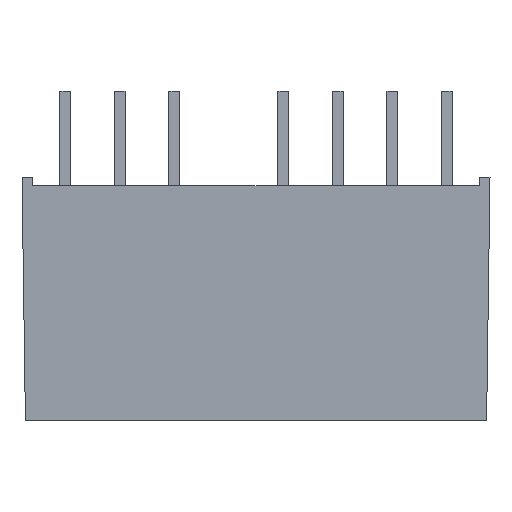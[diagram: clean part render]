
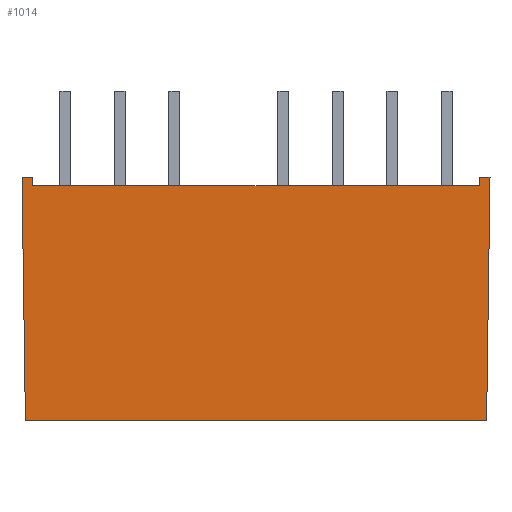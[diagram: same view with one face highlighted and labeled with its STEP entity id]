
A CAD part, front view. The second image highlights one B-rep face of the part: STEP entity #1014.
In plain terms, the highlighted planar face has unit normal (0, -1, -0.014).
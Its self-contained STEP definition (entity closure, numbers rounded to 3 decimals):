
#3 = CARTESIAN_POINT ( 'NONE',  ( 10.4, -4.65, 11.35 ) ) ;
#38 = VERTEX_POINT ( 'NONE', #153 ) ;
#47 = VECTOR ( 'NONE', #322, 1000. ) ;
#93 = CARTESIAN_POINT ( 'NONE',  ( 10.742, -4.492, 0. ) ) ;
#97 = ORIENTED_EDGE ( 'NONE', *, *, #972, .T. ) ;
#153 = CARTESIAN_POINT ( 'NONE',  ( 10.394, -4.644, 10.95 ) ) ;
#206 = VERTEX_POINT ( 'NONE', #1132 ) ;
#217 = LINE ( 'NONE', #850, #47 ) ;
#219 = DIRECTION ( 'NONE',  ( -0.014, -0.014, 1. ) ) ;
#254 = CARTESIAN_POINT ( 'NONE',  ( 10.9, -4.65, 11.35 ) ) ;
#256 = ORIENTED_EDGE ( 'NONE', *, *, #617, .T. ) ;
#312 = EDGE_CURVE ( 'NONE', #1264, #409, #590, .T. ) ;
#322 = DIRECTION ( 'NONE',  ( -0.014, 0.014, -1. ) ) ;
#327 = PLANE ( 'NONE',  #513 ) ;
#335 = VECTOR ( 'NONE', #614, 1000. ) ;
#362 = EDGE_CURVE ( 'NONE', #38, #1264, #1203, .T. ) ;
#409 = VERTEX_POINT ( 'NONE', #536 ) ;
#414 = EDGE_CURVE ( 'NONE', #206, #851, #1240, .T. ) ;
#424 = DIRECTION ( 'NONE',  ( -0.014, -0.014, 1. ) ) ;
#462 = ORIENTED_EDGE ( 'NONE', *, *, #865, .T. ) ;
#469 = CARTESIAN_POINT ( 'NONE',  ( -10.394, -4.644, 10.95 ) ) ;
#470 = VECTOR ( 'NONE', #1220, 1000. ) ;
#513 = AXIS2_PLACEMENT_3D ( 'NONE', #1177, #749, #1275 ) ;
#533 = CARTESIAN_POINT ( 'NONE',  ( 10.9, -4.644, 10.95 ) ) ;
#536 = CARTESIAN_POINT ( 'NONE',  ( -10.4, -4.65, 11.35 ) ) ;
#538 = VERTEX_POINT ( 'NONE', #1105 ) ;
#558 = ORIENTED_EDGE ( 'NONE', *, *, #414, .F. ) ;
#590 = LINE ( 'NONE', #954, #944 ) ;
#614 = DIRECTION ( 'NONE',  ( 1., 0., 0. ) ) ;
#617 = EDGE_CURVE ( 'NONE', #409, #1218, #1085, .T. ) ;
#627 = EDGE_LOOP ( 'NONE', ( #558, #771, #97, #725, #1121, #256, #820, #462 ) ) ;
#636 = CARTESIAN_POINT ( 'NONE',  ( 10.9, -4.65, 11.35 ) ) ;
#698 = CARTESIAN_POINT ( 'NONE',  ( 10.9, -4.65, 11.35 ) ) ;
#718 = CARTESIAN_POINT ( 'NONE',  ( 0., -4.492, 0. ) ) ;
#725 = ORIENTED_EDGE ( 'NONE', *, *, #362, .T. ) ;
#735 = EDGE_CURVE ( 'NONE', #206, #974, #1247, .T. ) ;
#749 = DIRECTION ( 'NONE',  ( 0., -1., -0.014 ) ) ;
#771 = ORIENTED_EDGE ( 'NONE', *, *, #735, .T. ) ;
#820 = ORIENTED_EDGE ( 'NONE', *, *, #946, .F. ) ;
#826 = VECTOR ( 'NONE', #1292, 1000. ) ;
#846 = DIRECTION ( 'NONE',  ( -1., 0., 0. ) ) ;
#850 = CARTESIAN_POINT ( 'NONE',  ( 10.4, -4.65, 11.35 ) ) ;
#851 = VERTEX_POINT ( 'NONE', #93 ) ;
#860 = DIRECTION ( 'NONE',  ( -0.014, 0.014, -1. ) ) ;
#865 = EDGE_CURVE ( 'NONE', #538, #851, #894, .T. ) ;
#894 = LINE ( 'NONE', #718, #335 ) ;
#944 = VECTOR ( 'NONE', #424, 1000. ) ;
#946 = EDGE_CURVE ( 'NONE', #538, #1218, #1286, .T. ) ;
#954 = CARTESIAN_POINT ( 'NONE',  ( -10.394, -4.644, 10.95 ) ) ;
#962 = CARTESIAN_POINT ( 'NONE',  ( -10.742, -4.492, 0. ) ) ;
#972 = EDGE_CURVE ( 'NONE', #974, #38, #217, .T. ) ;
#974 = VERTEX_POINT ( 'NONE', #3 ) ;
#975 = CARTESIAN_POINT ( 'NONE',  ( -10.9, -4.65, 11.35 ) ) ;
#1014 = ADVANCED_FACE ( 'NONE', ( #1083 ), #327, .T. ) ;
#1064 = VECTOR ( 'NONE', #846, 1000. ) ;
#1083 = FACE_OUTER_BOUND ( 'NONE', #627, .T. ) ;
#1085 = LINE ( 'NONE', #254, #826 ) ;
#1105 = CARTESIAN_POINT ( 'NONE',  ( -10.742, -4.492, 0. ) ) ;
#1121 = ORIENTED_EDGE ( 'NONE', *, *, #312, .T. ) ;
#1132 = CARTESIAN_POINT ( 'NONE',  ( 10.9, -4.65, 11.35 ) ) ;
#1177 = CARTESIAN_POINT ( 'NONE',  ( 10.9, -4.492, 0.001 ) ) ;
#1203 = LINE ( 'NONE', #533, #1064 ) ;
#1218 = VERTEX_POINT ( 'NONE', #975 ) ;
#1220 = DIRECTION ( 'NONE',  ( -1., 0., 0. ) ) ;
#1240 = LINE ( 'NONE', #636, #1297 ) ;
#1247 = LINE ( 'NONE', #698, #470 ) ;
#1264 = VERTEX_POINT ( 'NONE', #469 ) ;
#1275 = DIRECTION ( 'NONE',  ( 0., 0.014, -1. ) ) ;
#1286 = LINE ( 'NONE', #962, #1350 ) ;
#1292 = DIRECTION ( 'NONE',  ( -1., 0., 0. ) ) ;
#1297 = VECTOR ( 'NONE', #860, 1000. ) ;
#1350 = VECTOR ( 'NONE', #219, 1000. ) ;
